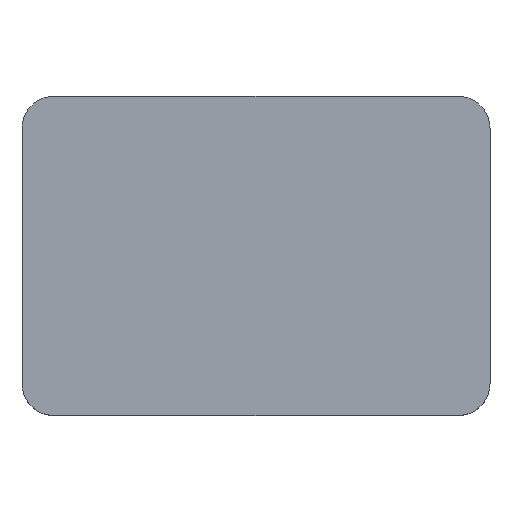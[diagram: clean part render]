
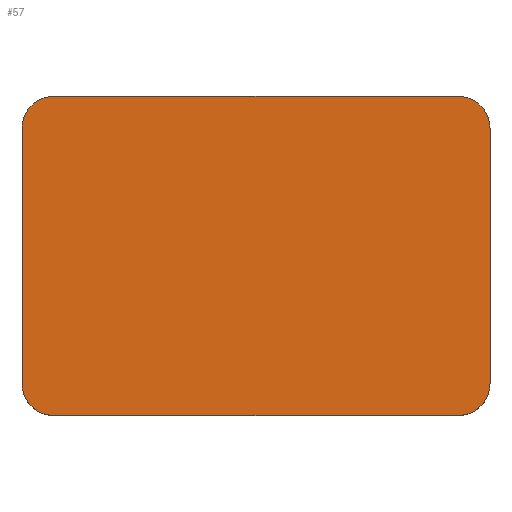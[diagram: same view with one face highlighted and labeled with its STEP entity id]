
A CAD part, top view. The second image highlights one B-rep face of the part: STEP entity #57.
In plain terms, the highlighted planar face has unit normal (0, 0, 1).
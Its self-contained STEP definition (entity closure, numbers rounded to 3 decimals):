
#21 = EDGE_CURVE('',#22,#24,#26,.T.);
#22 = VERTEX_POINT('',#23);
#23 = CARTESIAN_POINT('',(-62.,40.,31.));
#24 = VERTEX_POINT('',#25);
#25 = CARTESIAN_POINT('',(-62.,64.,31.));
#26 = LINE('',#27,#28);
#27 = CARTESIAN_POINT('',(-62.,37.,31.));
#28 = VECTOR('',#29,1.);
#29 = DIRECTION('',(0.,1.,0.));
#57 = ADVANCED_FACE('',(#58),#119,.T.);
#58 = FACE_BOUND('',#59,.T.);
#59 = EDGE_LOOP('',(#60,#61,#70,#78,#87,#95,#104,#112));
#60 = ORIENTED_EDGE('',*,*,#21,.F.);
#61 = ORIENTED_EDGE('',*,*,#62,.T.);
#62 = EDGE_CURVE('',#22,#63,#65,.T.);
#63 = VERTEX_POINT('',#64);
#64 = CARTESIAN_POINT('',(-59.,37.,31.));
#65 = CIRCLE('',#66,3.);
#66 = AXIS2_PLACEMENT_3D('',#67,#68,#69);
#67 = CARTESIAN_POINT('',(-59.,40.,31.));
#68 = DIRECTION('',(-0.,0.,1.));
#69 = DIRECTION('',(0.,-1.,0.));
#70 = ORIENTED_EDGE('',*,*,#71,.T.);
#71 = EDGE_CURVE('',#63,#72,#74,.T.);
#72 = VERTEX_POINT('',#73);
#73 = CARTESIAN_POINT('',(-21.,37.,31.));
#74 = LINE('',#75,#76);
#75 = CARTESIAN_POINT('',(-62.,37.,31.));
#76 = VECTOR('',#77,1.);
#77 = DIRECTION('',(1.,0.,0.));
#78 = ORIENTED_EDGE('',*,*,#79,.F.);
#79 = EDGE_CURVE('',#80,#72,#82,.T.);
#80 = VERTEX_POINT('',#81);
#81 = CARTESIAN_POINT('',(-18.,40.,31.));
#82 = CIRCLE('',#83,3.);
#83 = AXIS2_PLACEMENT_3D('',#84,#85,#86);
#84 = CARTESIAN_POINT('',(-21.,40.,31.));
#85 = DIRECTION('',(-0.,-0.,-1.));
#86 = DIRECTION('',(0.,-1.,0.));
#87 = ORIENTED_EDGE('',*,*,#88,.T.);
#88 = EDGE_CURVE('',#80,#89,#91,.T.);
#89 = VERTEX_POINT('',#90);
#90 = CARTESIAN_POINT('',(-18.,64.,31.));
#91 = LINE('',#92,#93);
#92 = CARTESIAN_POINT('',(-18.,37.,31.));
#93 = VECTOR('',#94,1.);
#94 = DIRECTION('',(0.,1.,0.));
#95 = ORIENTED_EDGE('',*,*,#96,.T.);
#96 = EDGE_CURVE('',#89,#97,#99,.T.);
#97 = VERTEX_POINT('',#98);
#98 = CARTESIAN_POINT('',(-21.,67.,31.));
#99 = CIRCLE('',#100,3.);
#100 = AXIS2_PLACEMENT_3D('',#101,#102,#103);
#101 = CARTESIAN_POINT('',(-21.,64.,31.));
#102 = DIRECTION('',(-0.,0.,1.));
#103 = DIRECTION('',(0.,-1.,0.));
#104 = ORIENTED_EDGE('',*,*,#105,.F.);
#105 = EDGE_CURVE('',#106,#97,#108,.T.);
#106 = VERTEX_POINT('',#107);
#107 = CARTESIAN_POINT('',(-59.,67.,31.));
#108 = LINE('',#109,#110);
#109 = CARTESIAN_POINT('',(-62.,67.,31.));
#110 = VECTOR('',#111,1.);
#111 = DIRECTION('',(1.,0.,0.));
#112 = ORIENTED_EDGE('',*,*,#113,.F.);
#113 = EDGE_CURVE('',#24,#106,#114,.T.);
#114 = CIRCLE('',#115,3.);
#115 = AXIS2_PLACEMENT_3D('',#116,#117,#118);
#116 = CARTESIAN_POINT('',(-59.,64.,31.));
#117 = DIRECTION('',(-0.,-0.,-1.));
#118 = DIRECTION('',(0.,-1.,0.));
#119 = PLANE('',#120);
#120 = AXIS2_PLACEMENT_3D('',#121,#122,#123);
#121 = CARTESIAN_POINT('',(-62.,37.,31.));
#122 = DIRECTION('',(0.,0.,1.));
#123 = DIRECTION('',(1.,0.,0.));
